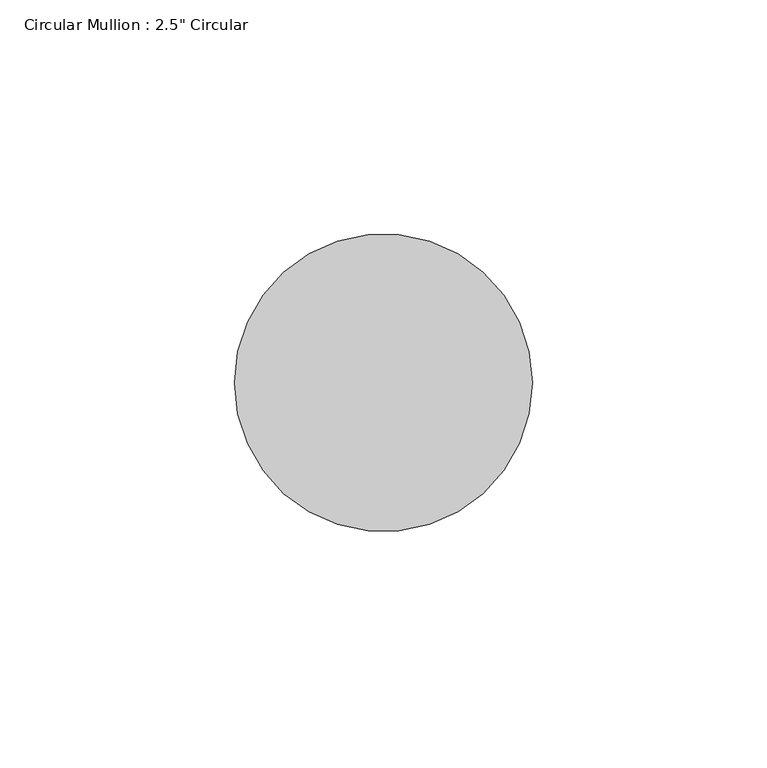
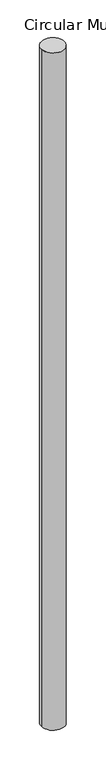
"""IFC4 building model written with IfcOpenShell, lengths in millimetres: member geometry."""

from ifc_helpers import new_model, si_unit, point, frame, origin, origin_2d, place, context, project, spatial, circle_curve, trimmed, segment, composite_curve, outline, extrude, source, transform, mapped, element, save


def member_fbba4340(model_context):
    return source(origin(), model_context, "Body", "SweptSolid", [
        extrude(outline(composite_curve([segment(trimmed(circle_curve(origin_2d(), 31.75), [point((31.75, 0.0))], [point((-31.75, 0.0))], False, "CARTESIAN"), True, "CONTINUOUS"), segment(trimmed(circle_curve(origin_2d(), 31.75), [point((-31.75, 0.0))], [point((31.75, 0.0))], False, "CARTESIAN"), True, "CONTINUOUS")], self_intersect=False)), frame((0.0, 0.0, -1962.1178096), z_axis=(0.0, 0.0, 1.0), x_axis=(1.0, 0.0, 0.0)), (0.0, 0.0, 1.0), 1962.1178096),
    ])


if __name__ == "__main__":
    model = new_model("IFC4")
    model_context = context("Model", 3, world=origin())
    ifc_project = project(units=[si_unit("LENGTHUNIT", "METRE", prefix="MILLI")], contexts=[model_context])
    site = spatial("IfcSite", under=ifc_project)
    building = spatial("IfcBuilding", under=site)
    placement = place(None, origin())
    member_shape = member_fbba4340(model_context)
    element("IfcMember", 1, ObjectType="Circular Mullion : 2.5\" Circular", at=placement, inside=building, context=model_context, shape_type="MappedRepresentation", body=[
        mapped(member_shape, transform((0.0, 0.0, 0.0), x_axis=(1.0, 0.0, 0.0), y_axis=(0.0, 1.0, 0.0), z_axis=(0.0, 0.0, 1.0))),
    ])
    save(model, "model.ifc")
